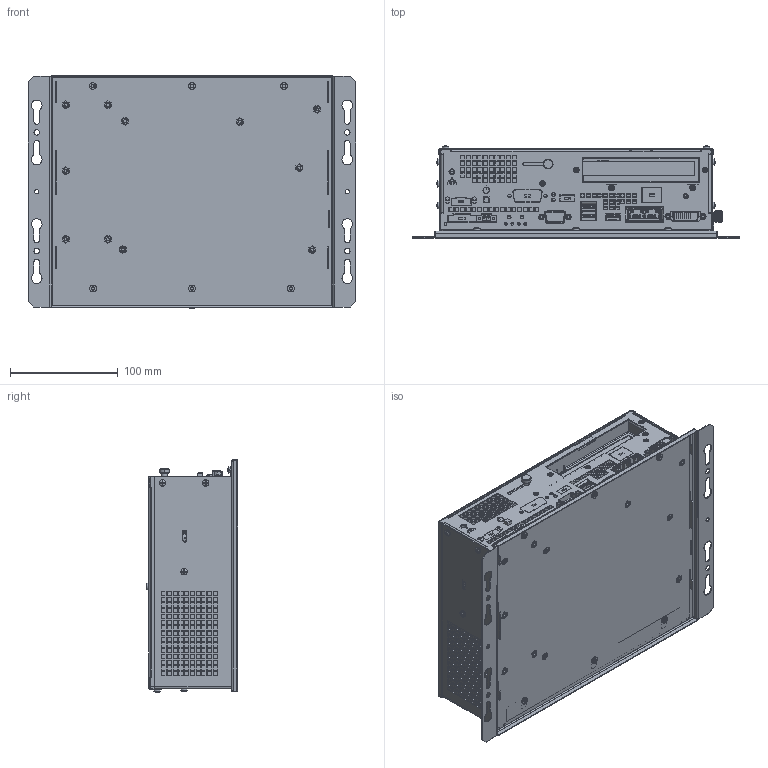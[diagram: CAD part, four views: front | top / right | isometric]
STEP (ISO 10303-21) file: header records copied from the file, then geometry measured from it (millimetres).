
FILE_DESCRIPTION((''),'2;1');
FILE_NAME('C6E22-Box_S1','2017-03-29T',('manpal'),(''),'PRO/ENGINEER BY PARAMETRIC TECHNOLOGY CORPORATION, 2013410','PRO/ENGINEER BY PARAMETRIC TECHNOLOGY CORPORATION, 2013410','');
FILE_SCHEMA(('AUTOMOTIVE_DESIGN { 1 0 10303 214 1 1 1 1 }'));
Products named in the file (6): 59302390; PEM_M3; Columns_AUTOAGG_PTSO_M3_H8; 59302390_ASM; C6E22-Box_S1_; C6E22-Box_S1
Assembly tree (20 placements, depth 3):
  C6E22-Box_S1
    59302390_ASM
      59302390
      PEM_M3  x6
      Columns_AUTOAGG_PTSO_M3_H8  x11
    C6E22-Box_S1_
Bounding box: 303.4 x 85.29 x 216.04 mm (x, y, z)
Volume: 55807.8 mm3; surface area: 425843.3 mm2
Topology: 18 solids, 246 shells, 5152 faces, 19966 edges, 14914 vertices
Faces by surface type: plane 4159, cylinder 617, cone 178, bspline 126, sphere 42, torus 28, extrusion 2
Entity records: 226107 total; most frequent: CARTESIAN_POINT 51825, DIRECTION 30713, ORIENTED_EDGE 29335, EDGE_CURVE 19492, VECTOR 16267, LINE 16265, VERTEX_POINT 14634, AXIS2_PLACEMENT_3D 7223
